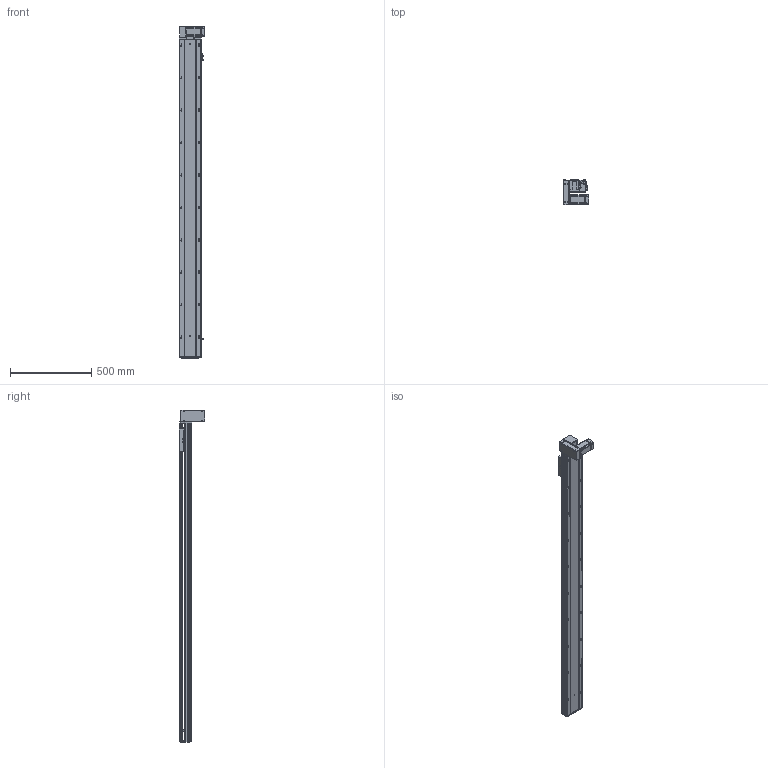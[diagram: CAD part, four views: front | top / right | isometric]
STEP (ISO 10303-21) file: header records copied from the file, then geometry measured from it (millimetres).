
FILE_DESCRIPTION (( 'STEP AP203' ), '1' );
FILE_NAME ('RY140-T-300-DL.SLDASM_1700.step', '2021-03-01T06:07:25', ( '盈信电脑' ), ( '东莞市道滘镇水果街19号' ), 'SwSTEP 2.0', 'SolidWorks 2012', '' );
FILE_SCHEMA (( 'CONFIG_CONTROL_DESIGN' ));
Length unit declared in the file: millimetre
Products named in the file (18): 滅袉蝶18-10; RY140-T-300-DL.SLDASM_1700; RY140-T萇儂欶; RY140-T翋肮謫裔啣; RY120-T蹟翐M4; 侂狟400W侜督萇儂; RY120-T主同步轮轴承压盖; 15; RY140-T翋肮祭謫盓傅釱; RY120-T肮祭湍揤踡輸2; RY120-T肮祭湍揤踡輸1; RY140-T萇儂假蚾啣; RY140綴裔啣; 覜茼ん672; RY120外置感应片(140共用）; RY140-T-300-DL倰第菁釱_1700; RY140肮祭謫臏賑輸; RY140-T-300-DL倰第奻裔啣_1700
Assembly tree (23 placements, depth 3):
  RY140-T-300-DL.SLDASM_1700
    RY140-T-300-DL倰第菁釱_1700
    RY140肮祭謫臏賑輸
    RY140-T-300-DL倰第奻裔啣_1700
    RY140綴裔啣
    覜茼ん672  x3
    RY120外置感应片(140共用）
    RY120-T肮祭湍揤踡輸2
    RY120-T肮祭湍揤踡輸1
    RY140-T翋肮祭謫盓傅釱
    RY140-T萇儂假蚾啣
    侂狟400W侜督萇儂
      15
    RY120-T主同步轮轴承压盖
    RY120-T蹟翐M4  x4
    RY140-T萇儂欶
    滅袉蝶18-10  x2
    RY140-T翋肮謫裔啣
Bounding box: 157 x 158.5 x 2046 mm (x, y, z)
Volume: 5671098.9 mm3; surface area: 2208275.3 mm2
Topology: 22 solids, 22 shells, 2826 faces, 7750 edges, 4940 vertices
Faces by surface type: plane 1385, cylinder 1071, cone 270, bspline 100
Entity records: 89304 total; most frequent: CARTESIAN_POINT 21651, ORIENTED_EDGE 13884, DIRECTION 13284, EDGE_CURVE 6942, VERTEX_POINT 4539, AXIS2_PLACEMENT_3D 4457, VECTOR 4370, LINE 4370
